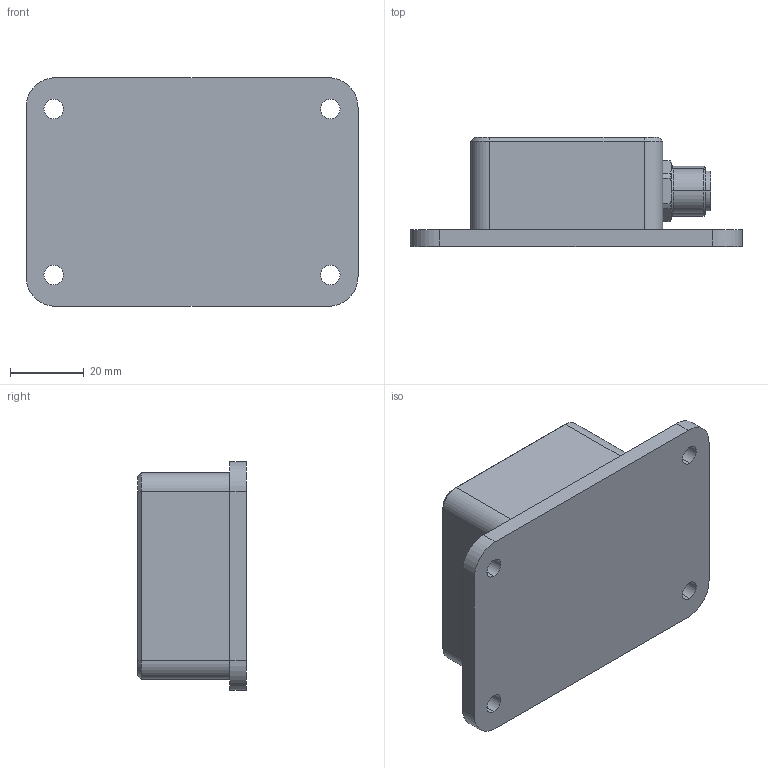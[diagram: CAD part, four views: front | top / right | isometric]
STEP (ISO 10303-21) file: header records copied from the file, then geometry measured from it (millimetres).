
FILE_DESCRIPTION (( 'STEP AP214' ), '1' );
FILE_NAME ('GA6 5621_SMA.STEP', '2026-04-16T13:49:26', ( '' ), ( '' ), 'SwSTEP 2.0', 'SolidWorks 2025', '' );
FILE_SCHEMA (( 'AUTOMOTIVE_DESIGN' ));
Length unit declared in the file: millimetre
Products named in the file (1): GA6 5621_SMA
Bounding box: 90 x 29.5 x 62 mm (x, y, z)
Volume: 99325.1 mm3; surface area: 19461.5 mm2
Topology: 1 solids, 3 shells, 419 faces, 1079 edges, 690 vertices
Faces by surface type: plane 148, cylinder 122, bspline 64, torus 41, cone 34, sphere 10
Entity records: 16828 total; most frequent: CARTESIAN_POINT 3637, ORIENTED_EDGE 2128, DIRECTION 1981, EDGE_CURVE 1064, AXIS2_PLACEMENT_3D 723, VERTEX_POINT 685, LINE 535, VECTOR 535
